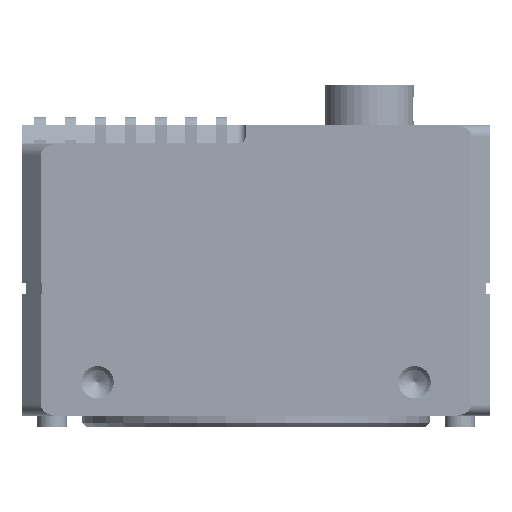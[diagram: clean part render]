
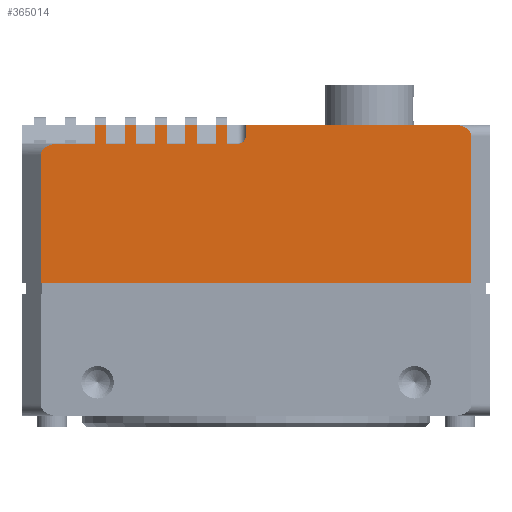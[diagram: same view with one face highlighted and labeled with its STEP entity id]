
A CAD part, front view. The second image highlights one B-rep face of the part: STEP entity #365014.
In plain terms, the highlighted planar face has unit normal (0, -1, 0) as drawn and (0, 1, 0) by its records, which use the part's own axes.
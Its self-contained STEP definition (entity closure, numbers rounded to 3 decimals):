
#361429=DIRECTION('',(0.,0.,1.));
#361430=VECTOR('',#361429,2.5);
#361431=CARTESIAN_POINT('',(7.85,31.,21.995));
#361432=LINE('',#361431,#361430);
#361458=DIRECTION('',(-1.,0.,0.));
#361459=VECTOR('',#361458,1.5);
#361460=CARTESIAN_POINT('',(3.85,31.,21.995));
#361461=LINE('',#361460,#361459);
#361462=DIRECTION('',(0.,0.,-1.));
#361463=VECTOR('',#361462,1.5);
#361464=CARTESIAN_POINT('',(1.35,31.,24.495));
#361465=LINE('',#361464,#361463);
#361466=DIRECTION('',(-1.,0.,0.));
#361467=VECTOR('',#361466,27.729);
#361468=CARTESIAN_POINT('',(1.35,31.,24.495));
#361469=LINE('',#361468,#361467);
#361470=CARTESIAN_POINT('',(-28.5,31.,22.995));
#361471=CARTESIAN_POINT('',(-28.5,31.,23.146));
#361472=CARTESIAN_POINT('',(-28.443,31.,23.39));
#361473=CARTESIAN_POINT('',(-28.226,31.,23.777));
#361474=CARTESIAN_POINT('',(-27.826,31.,24.131));
#361475=CARTESIAN_POINT('',(-27.2,31.,24.411));
#361476=CARTESIAN_POINT('',(-26.68,31.,24.495));
#361477=CARTESIAN_POINT('',(-26.379,31.,24.495));
#361479=DIRECTION('',(0.,0.,-1.));
#361480=VECTOR('',#361479,19.405);
#361481=CARTESIAN_POINT('',(-28.5,31.,22.995));
#361482=LINE('',#361481,#361480);
#361483=DIRECTION('',(-1.,0.,0.));
#361484=VECTOR('',#361483,57.);
#361485=CARTESIAN_POINT('',(28.5,31.,3.59));
#361486=LINE('',#361485,#361484);
#361487=DIRECTION('',(0.,0.,1.));
#361488=VECTOR('',#361487,16.905);
#361489=CARTESIAN_POINT('',(28.5,31.,3.59));
#361490=LINE('',#361489,#361488);
#361491=CARTESIAN_POINT('',(26.379,31.,21.995));
#361492=CARTESIAN_POINT('',(26.68,31.,21.995));
#361493=CARTESIAN_POINT('',(27.2,31.,21.911));
#361494=CARTESIAN_POINT('',(27.826,31.,21.631));
#361495=CARTESIAN_POINT('',(28.226,31.,21.277));
#361496=CARTESIAN_POINT('',(28.443,31.,20.89));
#361497=CARTESIAN_POINT('',(28.5,31.,20.646));
#361498=CARTESIAN_POINT('',(28.5,31.,20.495));
#361500=DIRECTION('',(-1.,0.,0.));
#361501=VECTOR('',#361500,5.029);
#361502=CARTESIAN_POINT('',(26.379,31.,21.995));
#361503=LINE('',#361502,#361501);
#361504=DIRECTION('',(-1.,0.,0.));
#361505=VECTOR('',#361504,1.5);
#361506=CARTESIAN_POINT('',(21.35,31.,24.495));
#361507=LINE('',#361506,#361505);
#361508=DIRECTION('',(-1.,0.,0.));
#361509=VECTOR('',#361508,2.5);
#361510=CARTESIAN_POINT('',(19.85,31.,21.995));
#361511=LINE('',#361510,#361509);
#361512=DIRECTION('',(-1.,0.,0.));
#361513=VECTOR('',#361512,1.5);
#361514=CARTESIAN_POINT('',(17.35,31.,24.495));
#361515=LINE('',#361514,#361513);
#361516=DIRECTION('',(-1.,0.,0.));
#361517=VECTOR('',#361516,2.5);
#361518=CARTESIAN_POINT('',(15.85,31.,21.995));
#361519=LINE('',#361518,#361517);
#361520=DIRECTION('',(-1.,0.,0.));
#361521=VECTOR('',#361520,1.5);
#361522=CARTESIAN_POINT('',(13.35,31.,24.495));
#361523=LINE('',#361522,#361521);
#361524=DIRECTION('',(-1.,0.,0.));
#361525=VECTOR('',#361524,2.5);
#361526=CARTESIAN_POINT('',(11.85,31.,21.995));
#361527=LINE('',#361526,#361525);
#361528=DIRECTION('',(-1.,0.,0.));
#361529=VECTOR('',#361528,1.5);
#361530=CARTESIAN_POINT('',(9.35,31.,24.495));
#361531=LINE('',#361530,#361529);
#361532=DIRECTION('',(-1.,0.,0.));
#361533=VECTOR('',#361532,2.5);
#361534=CARTESIAN_POINT('',(7.85,31.,21.995));
#361535=LINE('',#361534,#361533);
#361536=DIRECTION('',(-1.,0.,0.));
#361537=VECTOR('',#361536,1.5);
#361538=CARTESIAN_POINT('',(5.35,31.,24.495));
#361539=LINE('',#361538,#361537);
#361540=CARTESIAN_POINT('',(2.35,31.,22.995));
#361541=DIRECTION('',(0.,-1.,0.));
#361542=DIRECTION('',(-1.,0.,0.));
#361543=AXIS2_PLACEMENT_3D('',#361540,#361541,#361542);
#361651=DIRECTION('',(0.,0.,1.));
#361652=VECTOR('',#361651,2.5);
#361653=CARTESIAN_POINT('',(5.35,31.,21.995));
#361654=LINE('',#361653,#361652);
#361668=DIRECTION('',(0.,0.,1.));
#361669=VECTOR('',#361668,2.5);
#361670=CARTESIAN_POINT('',(3.85,31.,21.995));
#361671=LINE('',#361670,#361669);
#361710=DIRECTION('',(0.,0.,1.));
#361711=VECTOR('',#361710,2.5);
#361712=CARTESIAN_POINT('',(11.85,31.,21.995));
#361713=LINE('',#361712,#361711);
#361757=DIRECTION('',(0.,0.,1.));
#361758=VECTOR('',#361757,2.5);
#361759=CARTESIAN_POINT('',(13.35,31.,21.995));
#361760=LINE('',#361759,#361758);
#361787=DIRECTION('',(0.,0.,1.));
#361788=VECTOR('',#361787,2.5);
#361789=CARTESIAN_POINT('',(9.35,31.,21.995));
#361790=LINE('',#361789,#361788);
#361808=DIRECTION('',(0.,0.,1.));
#361809=VECTOR('',#361808,2.5);
#361810=CARTESIAN_POINT('',(15.85,31.,21.995));
#361811=LINE('',#361810,#361809);
#361855=DIRECTION('',(0.,0.,1.));
#361856=VECTOR('',#361855,2.5);
#361857=CARTESIAN_POINT('',(17.35,31.,21.995));
#361858=LINE('',#361857,#361856);
#361876=DIRECTION('',(0.,0.,1.));
#361877=VECTOR('',#361876,2.5);
#361878=CARTESIAN_POINT('',(19.85,31.,21.995));
#361879=LINE('',#361878,#361877);
#361923=DIRECTION('',(0.,0.,1.));
#361924=VECTOR('',#361923,2.5);
#361925=CARTESIAN_POINT('',(21.35,31.,21.995));
#361926=LINE('',#361925,#361924);
#362628=VERTEX_POINT('',#361470);
#362629=VERTEX_POINT('',#361477);
#362658=CARTESIAN_POINT('',(28.5,31.,3.59));
#362659=CARTESIAN_POINT('',(-28.5,31.,3.59));
#362660=VERTEX_POINT('',#362658);
#362661=VERTEX_POINT('',#362659);
#362696=CARTESIAN_POINT('',(1.35,31.,24.495));
#362697=VERTEX_POINT('',#362696);
#362700=VERTEX_POINT('',#361491);
#362701=VERTEX_POINT('',#361498);
#362715=CARTESIAN_POINT('',(3.85,31.,21.995));
#362717=VERTEX_POINT('',#362715);
#362719=CARTESIAN_POINT('',(5.35,31.,21.995));
#362721=VERTEX_POINT('',#362719);
#362731=CARTESIAN_POINT('',(7.85,31.,21.995));
#362733=VERTEX_POINT('',#362731);
#362735=CARTESIAN_POINT('',(9.35,31.,21.995));
#362737=VERTEX_POINT('',#362735);
#362747=CARTESIAN_POINT('',(11.85,31.,21.995));
#362749=VERTEX_POINT('',#362747);
#362751=CARTESIAN_POINT('',(13.35,31.,21.995));
#362753=VERTEX_POINT('',#362751);
#362763=CARTESIAN_POINT('',(15.85,31.,21.995));
#362765=VERTEX_POINT('',#362763);
#362767=CARTESIAN_POINT('',(17.35,31.,21.995));
#362769=VERTEX_POINT('',#362767);
#362779=CARTESIAN_POINT('',(19.85,31.,21.995));
#362781=VERTEX_POINT('',#362779);
#362783=CARTESIAN_POINT('',(21.35,31.,21.995));
#362785=VERTEX_POINT('',#362783);
#362786=CARTESIAN_POINT('',(21.35,31.,24.495));
#362787=CARTESIAN_POINT('',(19.85,31.,24.495));
#362788=VERTEX_POINT('',#362786);
#362789=VERTEX_POINT('',#362787);
#362790=CARTESIAN_POINT('',(17.35,31.,24.495));
#362791=CARTESIAN_POINT('',(15.85,31.,24.495));
#362792=VERTEX_POINT('',#362790);
#362793=VERTEX_POINT('',#362791);
#362794=CARTESIAN_POINT('',(13.35,31.,24.495));
#362795=CARTESIAN_POINT('',(11.85,31.,24.495));
#362796=VERTEX_POINT('',#362794);
#362797=VERTEX_POINT('',#362795);
#362798=CARTESIAN_POINT('',(9.35,31.,24.495));
#362799=CARTESIAN_POINT('',(7.85,31.,24.495));
#362800=VERTEX_POINT('',#362798);
#362801=VERTEX_POINT('',#362799);
#362802=CARTESIAN_POINT('',(5.35,31.,24.495));
#362803=CARTESIAN_POINT('',(3.85,31.,24.495));
#362804=VERTEX_POINT('',#362802);
#362805=VERTEX_POINT('',#362803);
#363104=CARTESIAN_POINT('',(2.35,31.,21.995));
#363106=VERTEX_POINT('',#363104);
#363108=CARTESIAN_POINT('',(1.35,31.,22.995));
#363109=VERTEX_POINT('',#363108);
#364961=CARTESIAN_POINT('',(31.,31.,4.6));
#364962=DIRECTION('',(0.,1.,0.));
#364963=DIRECTION('',(-1.,0.,0.));
#364964=AXIS2_PLACEMENT_3D('',#364961,#364962,#364963);
#364965=PLANE('',#364964);
#364966=ORIENTED_EDGE('',*,*,#363833,.T.);
#364968=ORIENTED_EDGE('',*,*,#364967,.F.);
#364970=ORIENTED_EDGE('',*,*,#364969,.F.);
#364971=ORIENTED_EDGE('',*,*,#364075,.T.);
#364973=ORIENTED_EDGE('',*,*,#364972,.F.);
#364975=ORIENTED_EDGE('',*,*,#364974,.T.);
#364976=ORIENTED_EDGE('',*,*,#363491,.F.);
#364977=ORIENTED_EDGE('',*,*,#363223,.T.);
#364978=ORIENTED_EDGE('',*,*,#363241,.F.);
#364979=ORIENTED_EDGE('',*,*,#363857,.T.);
#364981=ORIENTED_EDGE('',*,*,#364980,.T.);
#364983=ORIENTED_EDGE('',*,*,#364982,.T.);
#364985=ORIENTED_EDGE('',*,*,#364984,.F.);
#364986=ORIENTED_EDGE('',*,*,#363821,.T.);
#364988=ORIENTED_EDGE('',*,*,#364987,.T.);
#364990=ORIENTED_EDGE('',*,*,#364989,.T.);
#364992=ORIENTED_EDGE('',*,*,#364991,.F.);
#364993=ORIENTED_EDGE('',*,*,#363805,.T.);
#364995=ORIENTED_EDGE('',*,*,#364994,.T.);
#364997=ORIENTED_EDGE('',*,*,#364996,.T.);
#364999=ORIENTED_EDGE('',*,*,#364998,.F.);
#365000=ORIENTED_EDGE('',*,*,#363789,.T.);
#365002=ORIENTED_EDGE('',*,*,#365001,.T.);
#365003=ORIENTED_EDGE('',*,*,#364954,.T.);
#365004=ORIENTED_EDGE('',*,*,#364893,.F.);
#365005=ORIENTED_EDGE('',*,*,#363773,.T.);
#365007=ORIENTED_EDGE('',*,*,#365006,.T.);
#365009=ORIENTED_EDGE('',*,*,#365008,.T.);
#365011=ORIENTED_EDGE('',*,*,#365010,.F.);
#365012=EDGE_LOOP('',(#364966,#364968,#364970,#364971,#364973,#364975,#364976,
#364977,#364978,#364979,#364981,#364983,#364985,#364986,#364988,#364990,#364992,
#364993,#364995,#364997,#364999,#365000,#365002,#365003,#365004,#365005,#365007,
#365009,#365011));
#365013=FACE_OUTER_BOUND('',#365012,.F.);
#365014=ADVANCED_FACE('',(#365013),#364965,.T.);
#361478=B_SPLINE_CURVE_WITH_KNOTS('',3,(#361470,#361471,#361472,#361473,#361474,
#361475,#361476,#361477),.UNSPECIFIED.,.F.,.F.,(4,1,1,1,1,4),(0.,0.125,
0.25,0.5,0.75,1.),.UNSPECIFIED.);
#361499=B_SPLINE_CURVE_WITH_KNOTS('',3,(#361491,#361492,#361493,#361494,#361495,
#361496,#361497,#361498),.UNSPECIFIED.,.F.,.F.,(4,1,1,1,1,4),(0.,0.25,0.5,
0.75,0.875,1.),.UNSPECIFIED.);
#361544=CIRCLE('',#361543,1.);
#363223=EDGE_CURVE('',#362660,#362701,#361490,.T.);
#363241=EDGE_CURVE('',#362700,#362701,#361499,.T.);
#363491=EDGE_CURVE('',#362660,#362661,#361486,.T.);
#363773=EDGE_CURVE('',#362733,#362721,#361535,.T.);
#363789=EDGE_CURVE('',#362749,#362737,#361527,.T.);
#363805=EDGE_CURVE('',#362765,#362753,#361519,.T.);
#363821=EDGE_CURVE('',#362781,#362769,#361511,.T.);
#363833=EDGE_CURVE('',#362717,#363106,#361461,.T.);
#363857=EDGE_CURVE('',#362700,#362785,#361503,.T.);
#364075=EDGE_CURVE('',#362697,#362629,#361469,.T.);
#364893=EDGE_CURVE('',#362733,#362801,#361432,.T.);
#364954=EDGE_CURVE('',#362800,#362801,#361531,.T.);
#364967=EDGE_CURVE('',#363109,#363106,#361544,.T.);
#364969=EDGE_CURVE('',#362697,#363109,#361465,.T.);
#364972=EDGE_CURVE('',#362628,#362629,#361478,.T.);
#364974=EDGE_CURVE('',#362628,#362661,#361482,.T.);
#364980=EDGE_CURVE('',#362785,#362788,#361926,.T.);
#364982=EDGE_CURVE('',#362788,#362789,#361507,.T.);
#364984=EDGE_CURVE('',#362781,#362789,#361879,.T.);
#364987=EDGE_CURVE('',#362769,#362792,#361858,.T.);
#364989=EDGE_CURVE('',#362792,#362793,#361515,.T.);
#364991=EDGE_CURVE('',#362765,#362793,#361811,.T.);
#364994=EDGE_CURVE('',#362753,#362796,#361760,.T.);
#364996=EDGE_CURVE('',#362796,#362797,#361523,.T.);
#364998=EDGE_CURVE('',#362749,#362797,#361713,.T.);
#365001=EDGE_CURVE('',#362737,#362800,#361790,.T.);
#365006=EDGE_CURVE('',#362721,#362804,#361654,.T.);
#365008=EDGE_CURVE('',#362804,#362805,#361539,.T.);
#365010=EDGE_CURVE('',#362717,#362805,#361671,.T.);
